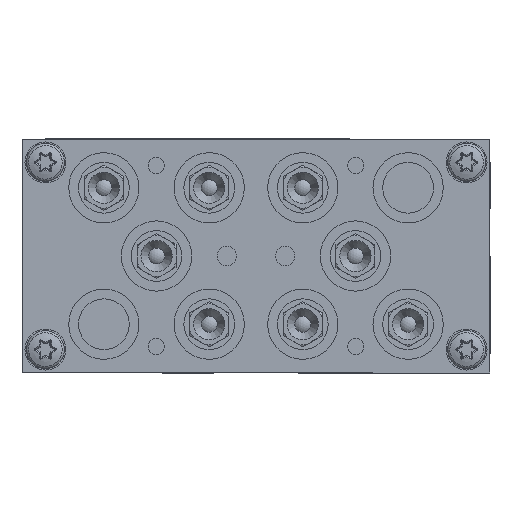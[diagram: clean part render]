
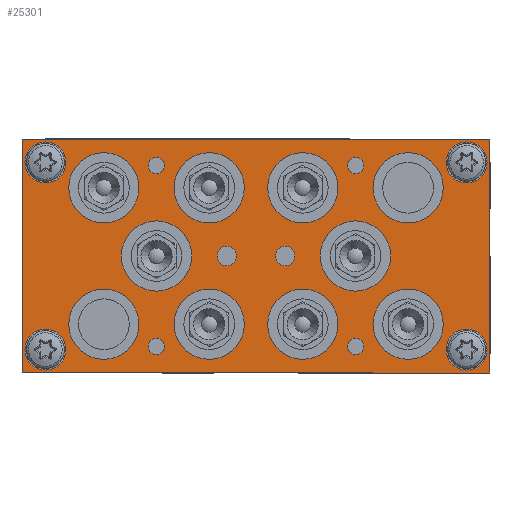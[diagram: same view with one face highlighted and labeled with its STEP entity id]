
A CAD part, left-side view. The second image highlights one B-rep face of the part: STEP entity #25301.
In plain terms, the highlighted planar face has unit normal (-1, 0, 0) as drawn and (0, 0, 1) by its records, which use the part's own axes.
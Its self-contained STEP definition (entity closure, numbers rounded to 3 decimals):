
#2385=LINE('',#60068,#3378);
#2389=LINE('',#60079,#3382);
#2393=LINE('',#60224,#3386);
#2394=LINE('',#60225,#3387);
#3378=VECTOR('',#31133,1000.);
#3382=VECTOR('',#31141,1000.);
#3386=VECTOR('',#31301,1000.);
#3387=VECTOR('',#31302,1000.);
#3772=PLANE('',#27027);
#8628=ORIENTED_EDGE('',*,*,#11322,.F.);
#8629=ORIENTED_EDGE('',*,*,#11323,.F.);
#8630=ORIENTED_EDGE('',*,*,#11324,.F.);
#8631=ORIENTED_EDGE('',*,*,#11325,.F.);
#8632=ORIENTED_EDGE('',*,*,#11326,.F.);
#8633=ORIENTED_EDGE('',*,*,#11327,.F.);
#8634=ORIENTED_EDGE('',*,*,#11328,.T.);
#8635=ORIENTED_EDGE('',*,*,#11329,.T.);
#8636=ORIENTED_EDGE('',*,*,#11330,.T.);
#8637=ORIENTED_EDGE('',*,*,#11331,.T.);
#8638=ORIENTED_EDGE('',*,*,#11332,.T.);
#8639=ORIENTED_EDGE('',*,*,#11333,.T.);
#8640=ORIENTED_EDGE('',*,*,#11334,.T.);
#8641=ORIENTED_EDGE('',*,*,#11264,.T.);
#8642=ORIENTED_EDGE('',*,*,#11335,.T.);
#8643=ORIENTED_EDGE('',*,*,#11269,.T.);
#8644=ORIENTED_EDGE('',*,*,#11336,.T.);
#8645=ORIENTED_EDGE('',*,*,#11337,.T.);
#8646=ORIENTED_EDGE('',*,*,#11338,.T.);
#8647=ORIENTED_EDGE('',*,*,#11339,.T.);
#8648=ORIENTED_EDGE('',*,*,#11340,.T.);
#8649=ORIENTED_EDGE('',*,*,#11341,.T.);
#8650=ORIENTED_EDGE('',*,*,#11342,.T.);
#8651=ORIENTED_EDGE('',*,*,#11343,.T.);
#11264=EDGE_CURVE('',#12896,#12895,#2385,.T.);
#11269=EDGE_CURVE('',#12901,#12900,#2389,.T.);
#11322=EDGE_CURVE('',#12951,#12951,#13745,.T.);
#11323=EDGE_CURVE('',#12952,#12952,#13746,.T.);
#11324=EDGE_CURVE('',#12953,#12953,#13747,.T.);
#11325=EDGE_CURVE('',#12954,#12954,#13748,.T.);
#11326=EDGE_CURVE('',#12955,#12955,#13749,.T.);
#11327=EDGE_CURVE('',#12956,#12956,#13750,.T.);
#11328=EDGE_CURVE('',#12957,#12957,#13751,.T.);
#11329=EDGE_CURVE('',#12958,#12958,#13752,.T.);
#11330=EDGE_CURVE('',#12959,#12959,#13753,.T.);
#11331=EDGE_CURVE('',#12960,#12960,#13754,.T.);
#11332=EDGE_CURVE('',#12961,#12961,#13755,.T.);
#11333=EDGE_CURVE('',#12962,#12962,#13756,.T.);
#11334=EDGE_CURVE('',#12963,#12963,#13757,.T.);
#11335=EDGE_CURVE('',#12895,#12901,#2393,.T.);
#11336=EDGE_CURVE('',#12900,#12896,#2394,.T.);
#11337=EDGE_CURVE('',#12964,#12964,#13758,.T.);
#11338=EDGE_CURVE('',#12965,#12965,#13759,.T.);
#11339=EDGE_CURVE('',#12966,#12966,#13760,.T.);
#11340=EDGE_CURVE('',#12967,#12967,#13761,.T.);
#11341=EDGE_CURVE('',#12968,#12968,#13762,.T.);
#11342=EDGE_CURVE('',#12969,#12969,#13763,.T.);
#11343=EDGE_CURVE('',#12970,#12970,#13764,.T.);
#12895=VERTEX_POINT('',#60067);
#12896=VERTEX_POINT('',#60069);
#12900=VERTEX_POINT('',#60078);
#12901=VERTEX_POINT('',#60080);
#12951=VERTEX_POINT('',#60199);
#12952=VERTEX_POINT('',#60201);
#12953=VERTEX_POINT('',#60203);
#12954=VERTEX_POINT('',#60205);
#12955=VERTEX_POINT('',#60207);
#12956=VERTEX_POINT('',#60209);
#12957=VERTEX_POINT('',#60211);
#12958=VERTEX_POINT('',#60213);
#12959=VERTEX_POINT('',#60215);
#12960=VERTEX_POINT('',#60217);
#12961=VERTEX_POINT('',#60219);
#12962=VERTEX_POINT('',#60221);
#12963=VERTEX_POINT('',#60223);
#12964=VERTEX_POINT('',#60227);
#12965=VERTEX_POINT('',#60229);
#12966=VERTEX_POINT('',#60231);
#12967=VERTEX_POINT('',#60233);
#12968=VERTEX_POINT('',#60235);
#12969=VERTEX_POINT('',#60237);
#12970=VERTEX_POINT('',#60239);
#13745=CIRCLE('',#27028,2.067);
#13746=CIRCLE('',#27029,2.067);
#13747=CIRCLE('',#27030,2.067);
#13748=CIRCLE('',#27031,2.067);
#13749=CIRCLE('',#27032,2.459);
#13750=CIRCLE('',#27033,2.459);
#13751=CIRCLE('',#27034,9.);
#13752=CIRCLE('',#27035,9.);
#13753=CIRCLE('',#27036,9.);
#13754=CIRCLE('',#27037,9.);
#13755=CIRCLE('',#27038,9.);
#13756=CIRCLE('',#27039,5.25);
#13757=CIRCLE('',#27040,5.25);
#13758=CIRCLE('',#27041,5.25);
#13759=CIRCLE('',#27042,9.);
#13760=CIRCLE('',#27043,9.);
#13761=CIRCLE('',#27044,9.);
#13762=CIRCLE('',#27045,9.);
#13763=CIRCLE('',#27046,9.);
#13764=CIRCLE('',#27047,5.25);
#15042=EDGE_LOOP('',(#8628));
#15043=EDGE_LOOP('',(#8629));
#15044=EDGE_LOOP('',(#8630));
#15045=EDGE_LOOP('',(#8631));
#15046=EDGE_LOOP('',(#8632));
#15047=EDGE_LOOP('',(#8633));
#15048=EDGE_LOOP('',(#8634));
#15049=EDGE_LOOP('',(#8635));
#15050=EDGE_LOOP('',(#8636));
#15051=EDGE_LOOP('',(#8637));
#15052=EDGE_LOOP('',(#8638));
#15053=EDGE_LOOP('',(#8639));
#15054=EDGE_LOOP('',(#8640));
#15055=EDGE_LOOP('',(#8641,#8642,#8643,#8644));
#15056=EDGE_LOOP('',(#8645));
#15057=EDGE_LOOP('',(#8646));
#15058=EDGE_LOOP('',(#8647));
#15059=EDGE_LOOP('',(#8648));
#15060=EDGE_LOOP('',(#8649));
#15061=EDGE_LOOP('',(#8650));
#15062=EDGE_LOOP('',(#8651));
#16455=FACE_BOUND('',#15042,.T.);
#16456=FACE_BOUND('',#15043,.T.);
#16457=FACE_BOUND('',#15044,.T.);
#16458=FACE_BOUND('',#15045,.T.);
#16459=FACE_BOUND('',#15046,.T.);
#16460=FACE_BOUND('',#15047,.T.);
#16461=FACE_BOUND('',#15048,.T.);
#16462=FACE_BOUND('',#15049,.T.);
#16463=FACE_BOUND('',#15050,.T.);
#16464=FACE_BOUND('',#15051,.T.);
#16465=FACE_BOUND('',#15052,.T.);
#16466=FACE_BOUND('',#15053,.T.);
#16467=FACE_BOUND('',#15054,.T.);
#16468=FACE_BOUND('',#15055,.T.);
#16469=FACE_BOUND('',#15056,.T.);
#16470=FACE_BOUND('',#15057,.T.);
#16471=FACE_BOUND('',#15058,.T.);
#16472=FACE_BOUND('',#15059,.T.);
#16473=FACE_BOUND('',#15060,.T.);
#16474=FACE_BOUND('',#15061,.T.);
#16475=FACE_BOUND('',#15062,.T.);
#25301=ADVANCED_FACE('',(#16455,#16456,#16457,#16458,#16459,#16460,#16461,
#16462,#16463,#16464,#16465,#16466,#16467,#16468,#16469,#16470,#16471,#16472,
#16473,#16474,#16475),#3772,.T.);
#27027=AXIS2_PLACEMENT_3D('',#60197,#31273,#31274);
#27028=AXIS2_PLACEMENT_3D('',#60198,#31275,#31276);
#27029=AXIS2_PLACEMENT_3D('',#60200,#31277,#31278);
#27030=AXIS2_PLACEMENT_3D('',#60202,#31279,#31280);
#27031=AXIS2_PLACEMENT_3D('',#60204,#31281,#31282);
#27032=AXIS2_PLACEMENT_3D('',#60206,#31283,#31284);
#27033=AXIS2_PLACEMENT_3D('',#60208,#31285,#31286);
#27034=AXIS2_PLACEMENT_3D('',#60210,#31287,#31288);
#27035=AXIS2_PLACEMENT_3D('',#60212,#31289,#31290);
#27036=AXIS2_PLACEMENT_3D('',#60214,#31291,#31292);
#27037=AXIS2_PLACEMENT_3D('',#60216,#31293,#31294);
#27038=AXIS2_PLACEMENT_3D('',#60218,#31295,#31296);
#27039=AXIS2_PLACEMENT_3D('',#60220,#31297,#31298);
#27040=AXIS2_PLACEMENT_3D('',#60222,#31299,#31300);
#27041=AXIS2_PLACEMENT_3D('',#60226,#31303,#31304);
#27042=AXIS2_PLACEMENT_3D('',#60228,#31305,#31306);
#27043=AXIS2_PLACEMENT_3D('',#60230,#31307,#31308);
#27044=AXIS2_PLACEMENT_3D('',#60232,#31309,#31310);
#27045=AXIS2_PLACEMENT_3D('',#60234,#31311,#31312);
#27046=AXIS2_PLACEMENT_3D('',#60236,#31313,#31314);
#27047=AXIS2_PLACEMENT_3D('',#60238,#31315,#31316);
#31133=DIRECTION('',(-1.,0.,0.));
#31141=DIRECTION('',(1.,0.,0.));
#31273=DIRECTION('',(0.,0.,1.));
#31274=DIRECTION('',(1.,0.,0.));
#31275=DIRECTION('',(0.,0.,1.));
#31276=DIRECTION('',(1.,0.,0.));
#31277=DIRECTION('',(0.,0.,1.));
#31278=DIRECTION('',(1.,0.,0.));
#31279=DIRECTION('',(0.,0.,1.));
#31280=DIRECTION('',(1.,0.,0.));
#31281=DIRECTION('',(0.,0.,1.));
#31282=DIRECTION('',(1.,0.,0.));
#31283=DIRECTION('',(0.,0.,1.));
#31284=DIRECTION('',(1.,0.,0.));
#31285=DIRECTION('',(0.,0.,1.));
#31286=DIRECTION('',(1.,0.,0.));
#31287=DIRECTION('',(0.,0.,-1.));
#31288=DIRECTION('',(1.,0.,0.));
#31289=DIRECTION('',(0.,0.,-1.));
#31290=DIRECTION('',(1.,0.,0.));
#31291=DIRECTION('',(0.,0.,-1.));
#31292=DIRECTION('',(1.,0.,0.));
#31293=DIRECTION('',(0.,0.,-1.));
#31294=DIRECTION('',(1.,0.,0.));
#31295=DIRECTION('',(0.,0.,-1.));
#31296=DIRECTION('',(1.,0.,0.));
#31297=DIRECTION('',(0.,0.,-1.));
#31298=DIRECTION('',(1.,0.,0.));
#31299=DIRECTION('',(0.,0.,-1.));
#31300=DIRECTION('',(1.,0.,0.));
#31301=DIRECTION('',(0.,-1.,0.));
#31302=DIRECTION('',(0.,1.,0.));
#31303=DIRECTION('',(0.,0.,-1.));
#31304=DIRECTION('',(1.,0.,0.));
#31305=DIRECTION('',(0.,0.,-1.));
#31306=DIRECTION('',(1.,0.,0.));
#31307=DIRECTION('',(0.,0.,-1.));
#31308=DIRECTION('',(1.,0.,0.));
#31309=DIRECTION('',(0.,0.,-1.));
#31310=DIRECTION('',(1.,0.,0.));
#31311=DIRECTION('',(0.,0.,-1.));
#31312=DIRECTION('',(1.,0.,0.));
#31313=DIRECTION('',(0.,0.,-1.));
#31314=DIRECTION('',(1.,0.,0.));
#31315=DIRECTION('',(0.,0.,-1.));
#31316=DIRECTION('',(1.,0.,0.));
#60067=CARTESIAN_POINT('',(-60.,30.,15.));
#60068=CARTESIAN_POINT('',(60.,30.,15.));
#60069=CARTESIAN_POINT('',(60.,30.,15.));
#60078=CARTESIAN_POINT('',(60.,-30.,15.));
#60079=CARTESIAN_POINT('',(-60.,-30.,15.));
#60080=CARTESIAN_POINT('',(-60.,-30.,15.));
#60197=CARTESIAN_POINT('',(-60.,30.,15.));
#60198=CARTESIAN_POINT('',(25.6,23.2,15.));
#60199=CARTESIAN_POINT('',(27.667,23.2,15.));
#60200=CARTESIAN_POINT('',(-25.6,23.2,15.));
#60201=CARTESIAN_POINT('',(-23.533,23.2,15.));
#60202=CARTESIAN_POINT('',(-25.6,-23.2,15.));
#60203=CARTESIAN_POINT('',(-23.533,-23.2,15.));
#60204=CARTESIAN_POINT('',(25.6,-23.2,15.));
#60205=CARTESIAN_POINT('',(27.667,-23.2,15.));
#60206=CARTESIAN_POINT('',(7.5,0.,15.));
#60207=CARTESIAN_POINT('',(9.959,0.,15.));
#60208=CARTESIAN_POINT('',(-7.5,0.,15.));
#60209=CARTESIAN_POINT('',(-5.041,0.,15.));
#60210=CARTESIAN_POINT('',(25.5,0.,15.));
#60211=CARTESIAN_POINT('',(34.5,0.,15.));
#60212=CARTESIAN_POINT('',(39.,17.5,15.));
#60213=CARTESIAN_POINT('',(48.,17.5,15.));
#60214=CARTESIAN_POINT('',(-39.,-17.5,15.));
#60215=CARTESIAN_POINT('',(-30.,-17.5,15.));
#60216=CARTESIAN_POINT('',(-12.,-17.5,15.));
#60217=CARTESIAN_POINT('',(-3.,-17.5,15.));
#60218=CARTESIAN_POINT('',(12.,17.5,15.));
#60219=CARTESIAN_POINT('',(21.,17.5,15.));
#60220=CARTESIAN_POINT('',(-54.,-24.,15.));
#60221=CARTESIAN_POINT('',(-48.75,-24.,15.));
#60222=CARTESIAN_POINT('',(54.,24.,15.));
#60223=CARTESIAN_POINT('',(59.25,24.,15.));
#60224=CARTESIAN_POINT('',(-60.,30.,15.));
#60225=CARTESIAN_POINT('',(60.,-30.,15.));
#60226=CARTESIAN_POINT('',(54.,-24.,15.));
#60227=CARTESIAN_POINT('',(59.25,-24.,15.));
#60228=CARTESIAN_POINT('',(-12.,17.5,15.));
#60229=CARTESIAN_POINT('',(-3.,17.5,15.));
#60230=CARTESIAN_POINT('',(12.,-17.5,15.));
#60231=CARTESIAN_POINT('',(21.,-17.5,15.));
#60232=CARTESIAN_POINT('',(-39.,17.5,15.));
#60233=CARTESIAN_POINT('',(-30.,17.5,15.));
#60234=CARTESIAN_POINT('',(39.,-17.5,15.));
#60235=CARTESIAN_POINT('',(48.,-17.5,15.));
#60236=CARTESIAN_POINT('',(-25.5,0.,15.));
#60237=CARTESIAN_POINT('',(-16.5,0.,15.));
#60238=CARTESIAN_POINT('',(-54.,24.,15.));
#60239=CARTESIAN_POINT('',(-48.75,24.,15.));
